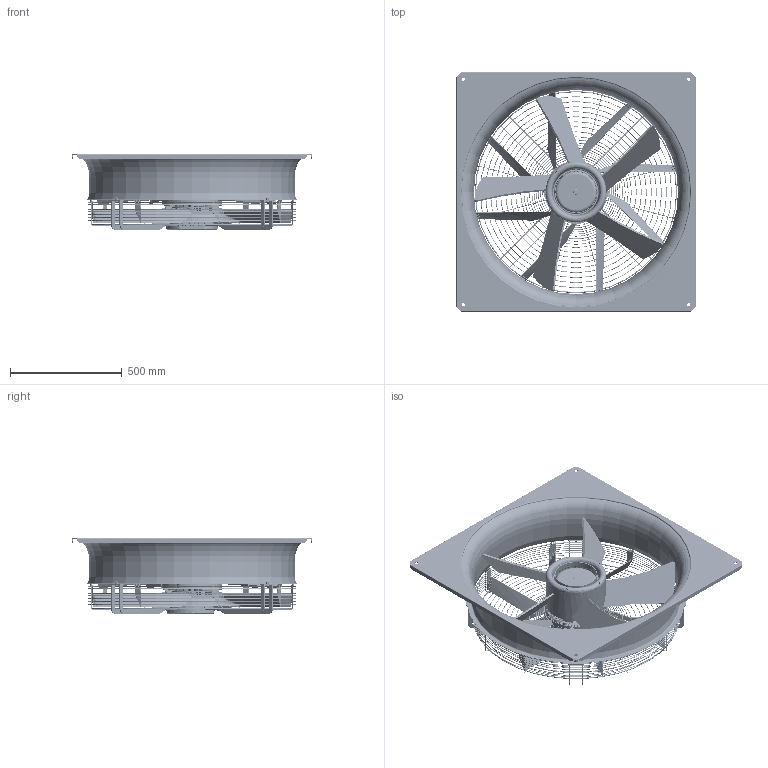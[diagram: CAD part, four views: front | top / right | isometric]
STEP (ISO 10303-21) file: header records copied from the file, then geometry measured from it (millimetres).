
FILE_DESCRIPTION (( 'STEP AP214' ), '1' );
FILE_NAME ('GTW091PUU29E-V001-for customer.STEP', '2024-01-04T08:18:40', ( '' ), ( '' ), 'SwSTEP 2.0', 'SolidWorks 2020', '' );
FILE_SCHEMA (( 'AUTOMOTIVE_DESIGN' ));
Length unit declared in the file: millimetre
Products named in the file (21): GTW091PUU29E-V001-for customer; TORX SCREW_3105652900-M10x20; OD150 鑄鐵ROTOR.(910打樣 鎖撥風片)-cal; 4101695400-AL BOTTOM COVER; pillow; Stator_customer; 背蓋組(預設); 3105864700 _M4x20; clip; 3323436900-wallring; CABLE GLAND (3479012600)_1; 3488496300-fanguard_定位; TORX SCREW_3105851600-M4x8; OD150 鑄鐵ROTOR.(910打樣 鎖撥風片)STEP^OD150 鑄鐵ROTOR.(910打樣 鎖撥風片)-cal; TORX SCREW_3105605500-M8x20; ½Æ»s of GTW_SCALE_thickness-customer^GTW091PUU29E-V001-for customer; OD150_MEGNET_4110703200, 127L 20Nm^OD150 鑄鐵ROTOR.(910打樣 鎖撥風片)STEP_OD150 鑄鐵ROTOR.(910打樣 鎖撥風片)-cal; NEW OD150 SHAFT ASSY__L_]__^OD150 鑄鐵ROTOR.(910打樣 鎖撥風片)STEP_OD150 鑄鐵ROTOR.(910打樣 鎖撥風片)-cal; 3475488200-cover; 3475388300-rotor cover
Assembly tree (57 placements, depth 4):
  GTW091PUU29E-V001-for customer
    背蓋組(預設)
      3105864700 _M4x20  x6
      4101695400-AL BOTTOM COVER
    pillow
    3475488200-cover
    OD150 鑄鐵ROTOR.(910打樣 鎖撥風片)-cal
      OD150 鑄鐵ROTOR.(910打樣 鎖撥風片)STEP^OD150 鑄鐵ROTOR.(910打樣 鎖撥風片)-cal
        NEW OD150 SHAFT ASSY__L_]__^OD150 鑄鐵ROTOR.(910打樣 鎖撥風片)STEP_OD150 鑄鐵ROTOR.(910打樣 鎖撥風片)-cal
        OD150_MEGNET_4110703200, 127L 20Nm^OD150 鑄鐵ROTOR.(910打樣 鎖撥風片)STEP_OD150 鑄鐵ROTOR.(910打樣 鎖撥風片)-cal  x10
        OD150 鑄鐵ROTOR.(910打樣 鎖撥風片)-cal
        3475388300-rotor cover
        TORX SCREW_3105851600-M4x8  x4
    Stator_customer  x8
    CABLE GLAND (3479012600)_1  x3
    3323436900-wallring
    TORX SCREW_3105605500-M8x20  x4
    TORX SCREW_3105652900-M10x20  x8
    clip  x2
    ½Æ»s of GTW_SCALE_thickness-customer^GTW091PUU29E-V001-for customer
    3488496300-fanguard_定位
Bounding box: 1070.06 x 1070.06 x 337 mm (x, y, z)
Volume: 9209305.9 mm3; surface area: 5482520.9 mm2
Topology: 94 solids, 112 shells, 15699 faces, 38458 edges, 22555 vertices
Faces by surface type: bspline 5003, plane 3139, cylinder 2999, torus 2423, cone 1144, sphere 991
Entity records: 560422 total; most frequent: CARTESIAN_POINT 331420, ORIENTED_EDGE 54990, DIRECTION 32685, EDGE_CURVE 27499, VERTEX_POINT 16489, B_SPLINE_CURVE_WITH_KNOTS 16146, AXIS2_PLACEMENT_3D 13721, EDGE_LOOP 11978
